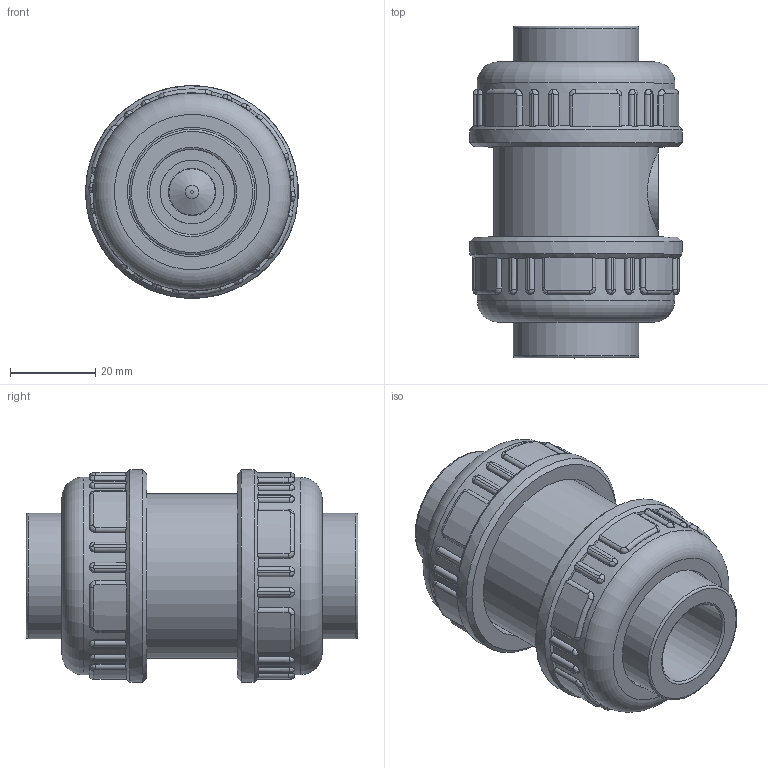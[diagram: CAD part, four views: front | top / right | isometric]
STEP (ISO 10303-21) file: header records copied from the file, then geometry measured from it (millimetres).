
FILE_DESCRIPTION(/* description */ (''),/* implementation_level */ '2;1');
FILE_NAME(/* name */ 'C:\Users\POLYPIPE\Desktop\DATASET INVENTOR\LIBRERIA EFFAST\3D_VALVOLE\3D_VALVOLE NON RITORNO\3D_CV\3D_CDRCVD\3D_CDRCVD0200.stp',/* time_stamp */ '2018-01-24T15:58:32+01:00',/* author */ ('POLYPIPE'),/* organization */ (''),/* preprocessor_version */ 'ST-DEVELOPER v16.1',/* originating_system */ 'Autodesk Inventor 2016',/* authorisation */ '');
FILE_SCHEMA (('CONFIG_CONTROL_DESIGN'));
Length unit declared in the file: centimetre
Products named in the file (1): 3D_CDRCVD0200
Bounding box: 49.99 x 78 x 49.99 mm (x, y, z)
Volume: 72447.7 mm3; surface area: 37535.7 mm2
Topology: 2 solids, 4 shells, 552 faces, 1449 edges, 916 vertices
Faces by surface type: plane 205, cylinder 148, bspline 146, torus 43, cone 10
Full cylindrical faces by diameter (mm): 15 x2, 15.6 x1, 18.1 x2, 18.6 x1, 20 x2, 20.8 x1, 23.6 x1, 25.6 x1, 26.1 x1, 29.5 x3, 30.2 x1, 30.4 x2, 30.5 x1, 31 x1, 31.3 x1, 35.4 x2, 38.6 x1, 40.4 x2, 46.5 x2, 50 x2
Entity records: 61735 total; most frequent: CARTESIAN_POINT 48664, ORIENTED_EDGE 2742, DIRECTION 2299, EDGE_CURVE 1371, VERTEX_POINT 902, AXIS2_PLACEMENT_3D 878, EDGE_LOOP 647, STYLED_ITEM 554
